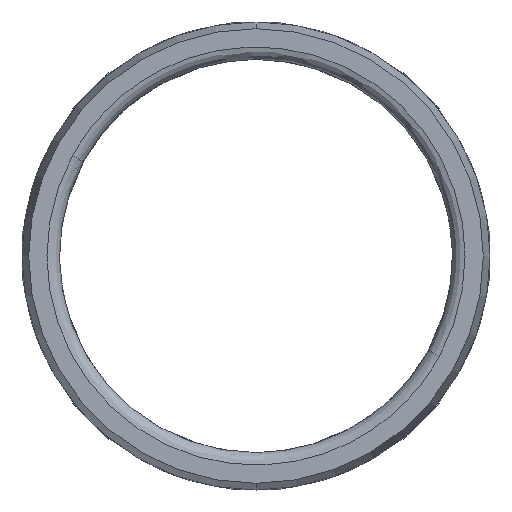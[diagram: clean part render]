
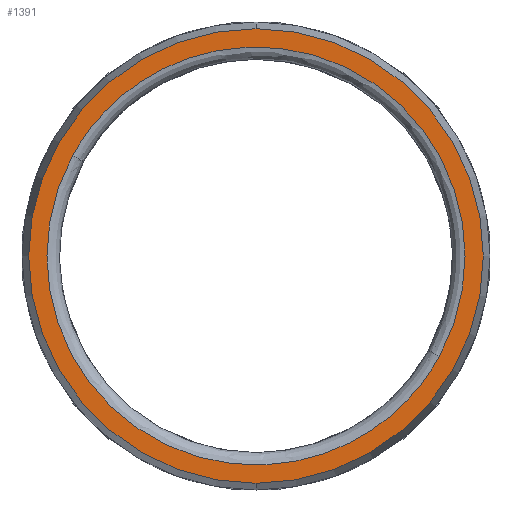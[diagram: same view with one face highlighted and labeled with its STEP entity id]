
A CAD part, front view. The second image highlights one B-rep face of the part: STEP entity #1391.
In plain terms, the highlighted planar face has unit normal (0, -1, 0).
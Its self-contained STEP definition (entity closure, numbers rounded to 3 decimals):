
#1231 = CARTESIAN_POINT ( 'NONE',  ( -29.399, 0., 16.061 ) ) ;
#1232 = CARTESIAN_POINT ( 'NONE',  ( -61.521, 0., -42.737 ) ) ;
#1233 = CARTESIAN_POINT ( 'NONE',  ( -2.722, 0., -74.859 ) ) ;
#1234 = CARTESIAN_POINT ( 'NONE',  ( 29.399, 0., -16.061 ) ) ;
#1391 = ADVANCED_FACE ( 'NONE', ( #2628, #2629 ), #2630, .F. ) ;
#1453 = AXIS2_PLACEMENT_3D ( 'NONE', #2631, #2632, #2633 ) ;
#1460 = EDGE_CURVE ( 'NONE', #3855, #3853, #4869, .T. ) ;
#1534 = ORIENTED_EDGE ( 'NONE', *, *, #1460, .F. ) ;
#1598 = ORIENTED_EDGE ( 'NONE', *, *, #4172, .F. ) ;
#2291 = CARTESIAN_POINT ( 'NONE',  ( 0., 0., 0. ) ) ;
#2292 = DIRECTION ( 'NONE',  ( 0., 1., 0. ) ) ;
#2293 = DIRECTION ( 'NONE',  ( 0., 0., 1. ) ) ;
#2508 =( BOUNDED_CURVE ( )  B_SPLINE_CURVE ( 3, ( #5576, #5577, #5578, #5579 ),
 .UNSPECIFIED., .F., .F. ) 
 B_SPLINE_CURVE_WITH_KNOTS ( ( 4, 4 ),
 ( 0., 1. ),
 .UNSPECIFIED. ) 
 CURVE ( )  GEOMETRIC_REPRESENTATION_ITEM ( )  RATIONAL_B_SPLINE_CURVE ( ( 1., 0.333, 0.333, 1. ) ) 
 REPRESENTATION_ITEM ( '' )  );
#2509 =( BOUNDED_CURVE ( )  B_SPLINE_CURVE ( 3, ( #1231, #1232, #1233, #1234 ),
 .UNSPECIFIED., .F., .F. ) 
 B_SPLINE_CURVE_WITH_KNOTS ( ( 4, 4 ),
 ( 0., 1. ),
 .UNSPECIFIED. ) 
 CURVE ( )  GEOMETRIC_REPRESENTATION_ITEM ( )  RATIONAL_B_SPLINE_CURVE ( ( 1., 0.333, 0.333, 1. ) ) 
 REPRESENTATION_ITEM ( '' )  );
#2628 = FACE_BOUND ( 'NONE', #3503, .T. ) ;
#2629 = FACE_OUTER_BOUND ( 'NONE', #3504, .T. ) ;
#2630 = PLANE ( 'NONE',  #1453 ) ;
#2631 = CARTESIAN_POINT ( 'NONE',  ( 33.5, 0., 0. ) ) ;
#2632 = DIRECTION ( 'NONE',  ( 0., 1., 0. ) ) ;
#2633 = DIRECTION ( 'NONE',  ( 0., 0., 1. ) ) ;
#2751 = CIRCLE ( 'NONE', #2754, 36.428 ) ;
#2754 = AXIS2_PLACEMENT_3D ( 'NONE', #2291, #2292, #2293 ) ;
#3380 = ORIENTED_EDGE ( 'NONE', *, *, #4099, .F. ) ;
#3503 = EDGE_LOOP ( 'NONE', ( #3380, #5099 ) ) ;
#3504 = EDGE_LOOP ( 'NONE', ( #1534, #1598 ) ) ;
#3603 = CARTESIAN_POINT ( 'NONE',  ( 0., 0., -36.428 ) ) ;
#3604 = CARTESIAN_POINT ( 'NONE',  ( 0., 0., 36.428 ) ) ;
#3853 = VERTEX_POINT ( 'NONE', #3603 ) ;
#3855 = VERTEX_POINT ( 'NONE', #3604 ) ;
#3940 = CARTESIAN_POINT ( 'NONE',  ( -29.399, 0., 16.061 ) ) ;
#3942 = CARTESIAN_POINT ( 'NONE',  ( 29.399, 0., -16.061 ) ) ;
#4051 = EDGE_CURVE ( 'NONE', #4960, #4959, #2508, .T. ) ;
#4099 = EDGE_CURVE ( 'NONE', #4959, #4960, #2509, .T. ) ;
#4172 = EDGE_CURVE ( 'NONE', #3853, #3855, #2751, .T. ) ;
#4797 = CARTESIAN_POINT ( 'NONE',  ( 0., 0., 0. ) ) ;
#4798 = DIRECTION ( 'NONE',  ( 0., 1., 0. ) ) ;
#4799 = DIRECTION ( 'NONE',  ( 0., 0., 1. ) ) ;
#4869 = CIRCLE ( 'NONE', #4870, 36.428 ) ;
#4870 = AXIS2_PLACEMENT_3D ( 'NONE', #4797, #4798, #4799 ) ;
#4959 = VERTEX_POINT ( 'NONE', #3940 ) ;
#4960 = VERTEX_POINT ( 'NONE', #3942 ) ;
#5099 = ORIENTED_EDGE ( 'NONE', *, *, #4051, .F. ) ;
#5576 = CARTESIAN_POINT ( 'NONE',  ( 29.399, 0., -16.061 ) ) ;
#5577 = CARTESIAN_POINT ( 'NONE',  ( 61.521, 0., 42.737 ) ) ;
#5578 = CARTESIAN_POINT ( 'NONE',  ( 2.722, 0., 74.859 ) ) ;
#5579 = CARTESIAN_POINT ( 'NONE',  ( -29.399, 0., 16.061 ) ) ;
